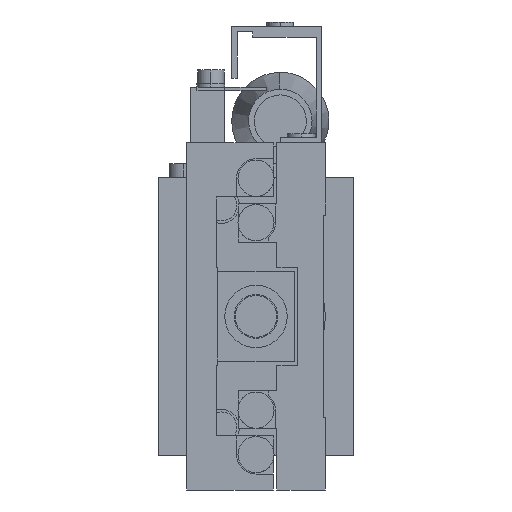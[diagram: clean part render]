
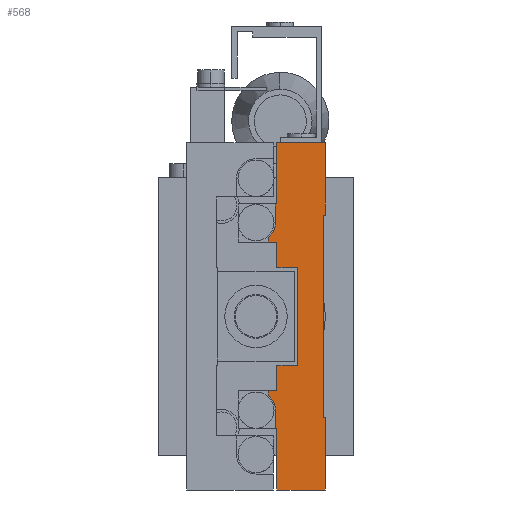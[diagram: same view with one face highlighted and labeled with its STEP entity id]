
A CAD part, left-side view. The second image highlights one B-rep face of the part: STEP entity #568.
In plain terms, the highlighted planar face has unit normal (-1, 0, 0).
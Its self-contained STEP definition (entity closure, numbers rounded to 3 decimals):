
#568=ADVANCED_FACE('',(#1542),#1543,.F.);
#1542=FACE_OUTER_BOUND('',#3017,.T.);
#1543=PLANE('',#3018);
#3017=EDGE_LOOP('',(#5947,#5948,#5949,#5950,#5951,#5952,#5953,#5954,#5955,#5956,#5957,#5958,#5959,#5960,#5961,#5962,#5963,#5964,#5965,#5966,#5967,#5968,#5969,#5970));
#3018=AXIS2_PLACEMENT_3D('',#5971,#5972,#5973);
#5947=ORIENTED_EDGE('',*,*,#10079,.T.);
#5948=ORIENTED_EDGE('',*,*,#10080,.T.);
#5949=ORIENTED_EDGE('',*,*,#10081,.T.);
#5950=ORIENTED_EDGE('',*,*,#10082,.F.);
#5951=ORIENTED_EDGE('',*,*,#10083,.F.);
#5952=ORIENTED_EDGE('',*,*,#10084,.F.);
#5953=ORIENTED_EDGE('',*,*,#10085,.F.);
#5954=ORIENTED_EDGE('',*,*,#10086,.F.);
#5955=ORIENTED_EDGE('',*,*,#10087,.F.);
#5956=ORIENTED_EDGE('',*,*,#10088,.F.);
#5957=ORIENTED_EDGE('',*,*,#10089,.F.);
#5958=ORIENTED_EDGE('',*,*,#10090,.F.);
#5959=ORIENTED_EDGE('',*,*,#10091,.F.);
#5960=ORIENTED_EDGE('',*,*,#10092,.F.);
#5961=ORIENTED_EDGE('',*,*,#10093,.T.);
#5962=ORIENTED_EDGE('',*,*,#10094,.T.);
#5963=ORIENTED_EDGE('',*,*,#10095,.T.);
#5964=ORIENTED_EDGE('',*,*,#10096,.F.);
#5965=ORIENTED_EDGE('',*,*,#10097,.F.);
#5966=ORIENTED_EDGE('',*,*,#10098,.F.);
#5967=ORIENTED_EDGE('',*,*,#10073,.F.);
#5968=ORIENTED_EDGE('',*,*,#10099,.F.);
#5969=ORIENTED_EDGE('',*,*,#10100,.F.);
#5970=ORIENTED_EDGE('',*,*,#10101,.F.);
#5971=CARTESIAN_POINT('',(-35.0,0.,0.0));
#5972=DIRECTION('',(1.0,0.0,0.0));
#5973=DIRECTION('',(0.0,1.0,0.0));
#10073=EDGE_CURVE('',#12210,#12211,#12212,.T.);
#10079=EDGE_CURVE('',#12221,#12222,#12223,.T.);
#10080=EDGE_CURVE('',#12222,#12224,#12225,.T.);
#10081=EDGE_CURVE('',#12224,#12226,#12227,.T.);
#10082=EDGE_CURVE('',#12228,#12226,#12229,.T.);
#10083=EDGE_CURVE('',#12230,#12228,#12231,.T.);
#10084=EDGE_CURVE('',#12232,#12230,#12233,.T.);
#10085=EDGE_CURVE('',#12234,#12232,#12235,.T.);
#10086=EDGE_CURVE('',#12236,#12234,#12237,.T.);
#10087=EDGE_CURVE('',#12238,#12236,#12239,.T.);
#10088=EDGE_CURVE('',#12240,#12238,#12241,.T.);
#10089=EDGE_CURVE('',#12242,#12240,#12243,.T.);
#10090=EDGE_CURVE('',#12244,#12242,#12245,.T.);
#10091=EDGE_CURVE('',#12246,#12244,#12247,.T.);
#10092=EDGE_CURVE('',#12248,#12246,#12249,.T.);
#10093=EDGE_CURVE('',#12248,#12250,#12251,.T.);
#10094=EDGE_CURVE('',#12250,#12252,#12253,.T.);
#10095=EDGE_CURVE('',#12252,#12254,#12255,.T.);
#10096=EDGE_CURVE('',#12256,#12254,#12257,.T.);
#10097=EDGE_CURVE('',#12258,#12256,#12259,.T.);
#10098=EDGE_CURVE('',#12211,#12258,#12260,.T.);
#10099=EDGE_CURVE('',#12261,#12210,#12262,.T.);
#10100=EDGE_CURVE('',#12263,#12261,#12264,.T.);
#10101=EDGE_CURVE('',#12221,#12263,#12265,.T.);
#12210=VERTEX_POINT('',#15407);
#12211=VERTEX_POINT('',#15408);
#12212=LINE('',#15409,#15410);
#12221=VERTEX_POINT('',#15422);
#12222=VERTEX_POINT('',#15423);
#12223=LINE('',#15424,#15425);
#12224=VERTEX_POINT('',#15426);
#12225=CIRCLE('',#15427,2.8);
#12226=VERTEX_POINT('',#15428);
#12227=LINE('',#15429,#15430);
#12228=VERTEX_POINT('',#15431);
#12229=LINE('',#15432,#15433);
#12230=VERTEX_POINT('',#15434);
#12231=LINE('',#15435,#15436);
#12232=VERTEX_POINT('',#15437);
#12233=LINE('',#15438,#15439);
#12234=VERTEX_POINT('',#15440);
#12235=LINE('',#15441,#15442);
#12236=VERTEX_POINT('',#15443);
#12237=LINE('',#15444,#15445);
#12238=VERTEX_POINT('',#15446);
#12239=LINE('',#15447,#15448);
#12240=VERTEX_POINT('',#15449);
#12241=LINE('',#15450,#15451);
#12242=VERTEX_POINT('',#15452);
#12243=LINE('',#15453,#15454);
#12244=VERTEX_POINT('',#15455);
#12245=LINE('',#15456,#15457);
#12246=VERTEX_POINT('',#15458);
#12247=LINE('',#15459,#15460);
#12248=VERTEX_POINT('',#15461);
#12249=LINE('',#15462,#15463);
#12250=VERTEX_POINT('',#15464);
#12251=LINE('',#15465,#15466);
#12252=VERTEX_POINT('',#15467);
#12253=CIRCLE('',#15468,2.8);
#12254=VERTEX_POINT('',#15469);
#12255=LINE('',#15470,#15471);
#12256=VERTEX_POINT('',#15472);
#12257=LINE('',#15473,#15474);
#12258=VERTEX_POINT('',#15475);
#12259=LINE('',#15476,#15477);
#12260=LINE('',#15478,#15479);
#12261=VERTEX_POINT('',#15480);
#12262=LINE('',#15481,#15482);
#12263=VERTEX_POINT('',#15483);
#12264=LINE('',#15484,#15485);
#12265=LINE('',#15486,#15487);
#15407=CARTESIAN_POINT('',(-35.0,4.0,-7.0));
#15408=CARTESIAN_POINT('',(-35.0,4.0,7.0));
#15409=CARTESIAN_POINT('',(-35.0,4.0,-7.0));
#15410=VECTOR('',#19041,1000.0);
#15422=CARTESIAN_POINT('',(-35.0,8.2,-10.7));
#15423=CARTESIAN_POINT('',(-35.0,8.2,-11.355));
#15424=CARTESIAN_POINT('',(-35.0,8.2,-10.7));
#15425=VECTOR('',#19051,1000.0);
#15426=CARTESIAN_POINT('',(-35.0,7.2,-13.5));
#15427=AXIS2_PLACEMENT_3D('',#19052,#19053,#19054);
#15428=CARTESIAN_POINT('',(-35.0,7.2,-16.2));
#15429=CARTESIAN_POINT('',(-35.0,7.2,-13.5));
#15430=VECTOR('',#19055,1000.0);
#15431=CARTESIAN_POINT('',(-35.0,7.0,-16.2));
#15432=CARTESIAN_POINT('',(-35.0,7.0,-16.2));
#15433=VECTOR('',#19056,1000.0);
#15434=CARTESIAN_POINT('',(-35.0,7.0,-25.0));
#15435=CARTESIAN_POINT('',(-35.0,7.0,-25.0));
#15436=VECTOR('',#19057,1000.0);
#15437=CARTESIAN_POINT('',(-35.0,0.,-25.0));
#15438=CARTESIAN_POINT('',(-35.0,0.,-25.0));
#15439=VECTOR('',#19058,1000.0);
#15440=CARTESIAN_POINT('',(-35.0,0.,-14.6));
#15441=CARTESIAN_POINT('',(-35.0,0.,-14.6));
#15442=VECTOR('',#19059,1000.0);
#15443=CARTESIAN_POINT('',(-35.0,0.3,-14.6));
#15444=CARTESIAN_POINT('',(-35.0,0.3,-14.6));
#15445=VECTOR('',#19060,1000.0);
#15446=CARTESIAN_POINT('',(-35.0,0.3,14.6));
#15447=CARTESIAN_POINT('',(-35.0,0.3,14.6));
#15448=VECTOR('',#19061,1000.0);
#15449=CARTESIAN_POINT('',(-35.0,0.,14.6));
#15450=CARTESIAN_POINT('',(-35.0,0.,14.6));
#15451=VECTOR('',#19062,1000.0);
#15452=CARTESIAN_POINT('',(-35.0,0.,25.0));
#15453=CARTESIAN_POINT('',(-35.0,0.,25.0));
#15454=VECTOR('',#19063,1000.0);
#15455=CARTESIAN_POINT('',(-35.0,7.0,25.0));
#15456=CARTESIAN_POINT('',(-35.0,7.0,25.0));
#15457=VECTOR('',#19064,1000.0);
#15458=CARTESIAN_POINT('',(-35.0,7.0,16.2));
#15459=CARTESIAN_POINT('',(-35.0,7.0,16.2));
#15460=VECTOR('',#19065,1000.0);
#15461=CARTESIAN_POINT('',(-35.0,7.2,16.2));
#15462=CARTESIAN_POINT('',(-35.0,12.5,16.2));
#15463=VECTOR('',#19066,1000.0);
#15464=CARTESIAN_POINT('',(-35.0,7.2,13.5));
#15465=CARTESIAN_POINT('',(-35.0,7.2,16.2));
#15466=VECTOR('',#19067,1000.0);
#15467=CARTESIAN_POINT('',(-35.0,8.2,11.355));
#15468=AXIS2_PLACEMENT_3D('',#19068,#19069,#19070);
#15469=CARTESIAN_POINT('',(-35.0,8.2,10.7));
#15470=CARTESIAN_POINT('',(-35.0,8.2,11.355));
#15471=VECTOR('',#19071,1000.0);
#15472=CARTESIAN_POINT('',(-35.0,7.0,10.7));
#15473=CARTESIAN_POINT('',(-35.0,7.0,10.7));
#15474=VECTOR('',#19072,1000.0);
#15475=CARTESIAN_POINT('',(-35.0,7.0,7.0));
#15476=CARTESIAN_POINT('',(-35.0,7.0,7.0));
#15477=VECTOR('',#19073,1000.0);
#15478=CARTESIAN_POINT('',(-35.0,4.0,7.0));
#15479=VECTOR('',#19074,1000.0);
#15480=CARTESIAN_POINT('',(-35.0,7.0,-7.0));
#15481=CARTESIAN_POINT('',(-35.0,7.0,-7.0));
#15482=VECTOR('',#19075,1000.0);
#15483=CARTESIAN_POINT('',(-35.0,7.0,-10.7));
#15484=CARTESIAN_POINT('',(-35.0,7.0,-10.7));
#15485=VECTOR('',#19076,1000.0);
#15486=CARTESIAN_POINT('',(-35.0,12.5,-10.7));
#15487=VECTOR('',#19077,1000.0);
#19041=DIRECTION('',(0.0,0.0,1.0));
#19051=DIRECTION('',(0.0,0.0,-1.0));
#19052=CARTESIAN_POINT('',(-35.0,10.0,-13.5));
#19053=DIRECTION('',(1.0,0.0,0.0));
#19054=DIRECTION('',(0.0,0.0,-1.0));
#19055=DIRECTION('',(0.0,0.0,-1.0));
#19056=DIRECTION('',(0.0,1.0,0.0));
#19057=DIRECTION('',(0.0,0.0,1.0));
#19058=DIRECTION('',(0.0,1.0,0.0));
#19059=DIRECTION('',(0.0,0.0,-1.0));
#19060=DIRECTION('',(0.0,-1.0,0.0));
#19061=DIRECTION('',(0.0,0.0,-1.0));
#19062=DIRECTION('',(0.0,1.0,0.0));
#19063=DIRECTION('',(0.0,0.0,-1.0));
#19064=DIRECTION('',(0.0,-1.0,0.0));
#19065=DIRECTION('',(0.0,0.,1.0));
#19066=DIRECTION('',(0.0,-1.0,0.0));
#19067=DIRECTION('',(0.0,0.0,-1.0));
#19068=CARTESIAN_POINT('',(-35.0,10.0,13.5));
#19069=DIRECTION('',(1.0,0.0,0.0));
#19070=DIRECTION('',(0.0,0.0,-1.0));
#19071=DIRECTION('',(0.0,0.0,-1.0));
#19072=DIRECTION('',(0.0,1.0,0.0));
#19073=DIRECTION('',(0.0,0.,1.0));
#19074=DIRECTION('',(0.0,1.0,0.0));
#19075=DIRECTION('',(0.0,-1.0,0.0));
#19076=DIRECTION('',(0.0,0.,1.0));
#19077=DIRECTION('',(0.0,-1.0,0.0));
